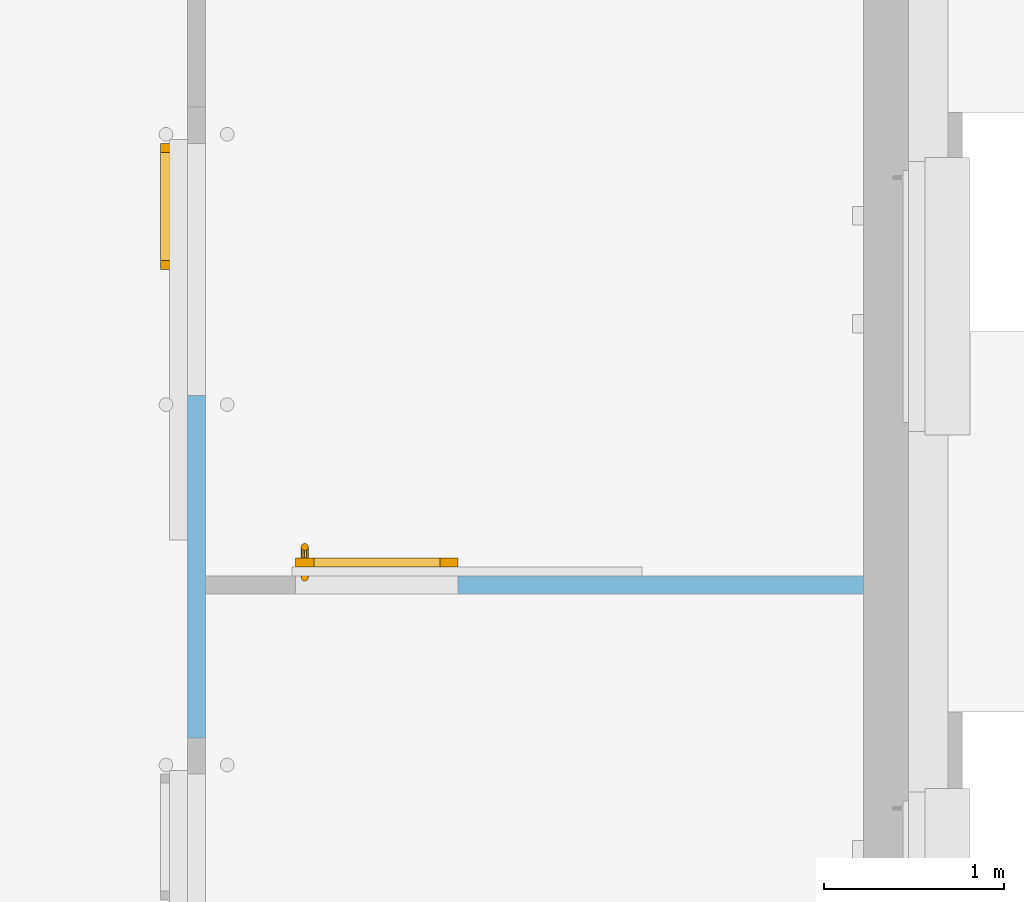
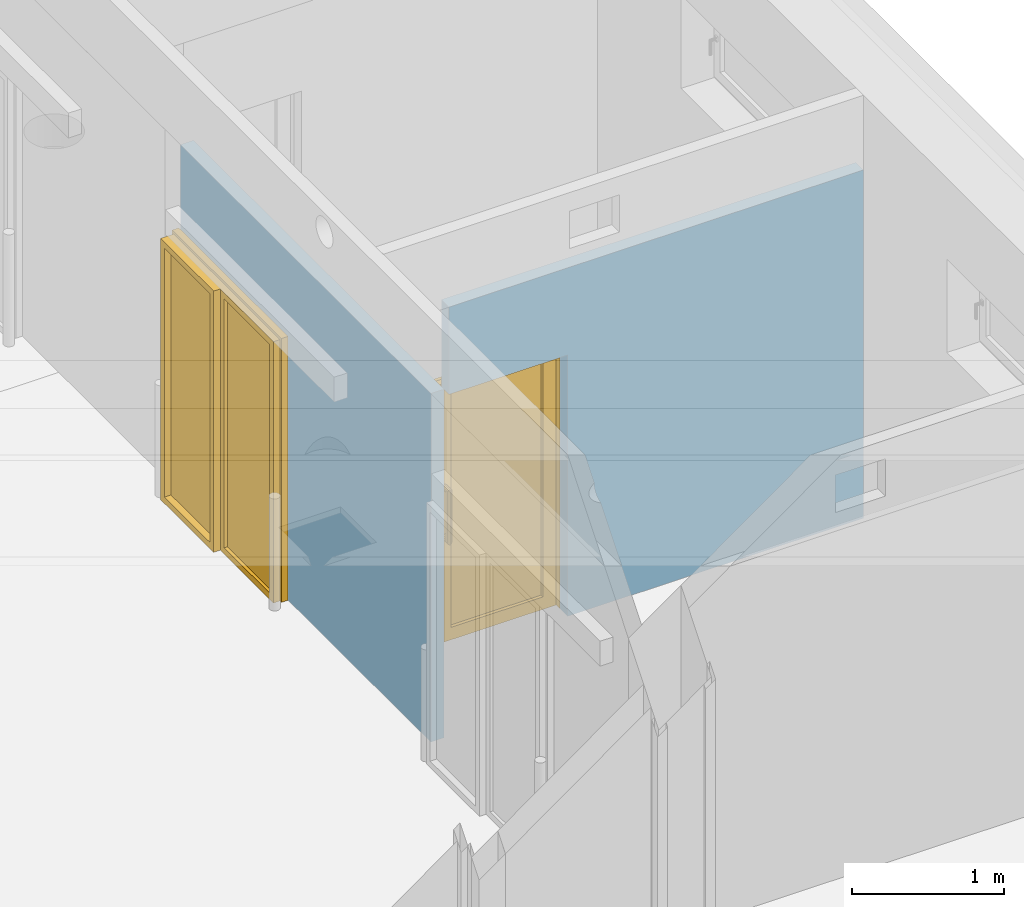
# One storey, part 110 of 140: 2 doors, 2 openings, plus 2 elements that do not belong to this part.
"""IFC4 building model written with IfcOpenShell, lengths in metres."""

import ifcopenshell
import ifcopenshell.guid

model = None  # the IFC model being written
_history = None  # IfcOwnerHistory: only IFC2X3 demands one
_inside = {}  # id of a spatial element -> (the spatial element, [elements in it])
_under = {}  # id of a project, library or spatial element -> (it, [spatial elements below it])
_declared = {}  # id of a project -> (the project, [libraries it declares])
_typed = {}  # id of a type object -> (the type object, [elements of that type])
_made_of = {}  # id of a material, layer set ... -> (it, [elements and type objects made of it])


def new_model(schema):
    """Start an empty IFC model of exactly this schema.

    Asked for "IFC4X3", IfcOpenShell would pick the latest addendum, in which some entities
    have other attributes; the version numbers below select the first issue.
    IFC2X3 requires an IfcOwnerHistory on every rooted entity: one is made here for all.
    """
    global model, _history
    if schema == "IFC4X3":
        model = ifcopenshell.file(schema_version=(4, 3, 0, 0))
    else:
        model = ifcopenshell.file(schema=schema)
    _inside.clear()
    _under.clear()
    _declared.clear()
    _typed.clear()
    _made_of.clear()
    _history = None
    if model.schema == "IFC2X3":
        org = make("IfcOrganization", Name="unknown")
        user = make(
            "IfcPersonAndOrganization",
            ThePerson=make("IfcPerson", FamilyName="unknown"),
            TheOrganization=org,
        )
        app = make(
            "IfcApplication",
            ApplicationDeveloper=org,
            Version="unknown",
            ApplicationFullName="unknown",
            ApplicationIdentifier="unknown",
        )
        _history = make(
            "IfcOwnerHistory",
            OwningUser=user,
            OwningApplication=app,
            ChangeAction="ADDED",
            CreationDate=0,
        )
    return model


def make(cls, **values):
    """One entity of the class cls with the attributes given. An attribute that is None is left unset."""
    return model.create_entity(
        cls, **{name: value for name, value in values.items() if value is not None}
    )


def entity(cls, *values):
    """Any entity or typed value of the class cls, its attributes in the order of the schema. None: left unset."""
    e = model.create_entity(cls)
    for i, value in enumerate(values):
        if value is not None:
            e[i] = value
    return e


def rooted(cls, **values):
    """An entity with a GlobalId (a new one), such as an element, a storey or a relation."""
    return make(cls, GlobalId=ifcopenshell.guid.new(), OwnerHistory=_history, **values)


def si_unit(unit_type, name, prefix=None):
    """IfcSIUnit, for example si_unit("LENGTHUNIT", "METRE", prefix="MILLI")."""
    return make("IfcSIUnit", UnitType=unit_type, Prefix=prefix, Name=name)


def converted_unit(unit_type, name, factor, base, dimensions=None, offset=None):
    """IfcConversionBasedUnit, such as the inch: factor (a typed value) times the base unit."""
    return make(
        "IfcConversionBasedUnit"
        if offset is None
        else "IfcConversionBasedUnitWithOffset",
        ConversionOffset=offset,
        Dimensions=None
        if dimensions is None
        else entity("IfcDimensionalExponents", *dimensions),
        UnitType=unit_type,
        Name=name,
        ConversionFactor=make(
            "IfcMeasureWithUnit", ValueComponent=factor, UnitComponent=base
        ),
    )


def derived_unit(unit_type, elements):
    """IfcDerivedUnit: a product of units, each with its exponent."""
    return make(
        "IfcDerivedUnit",
        Elements=[
            make("IfcDerivedUnitElement", Unit=unit, Exponent=power)
            for unit, power in elements
        ],
        UnitType=unit_type,
    )


def assignment(units):
    """IfcUnitAssignment: the units of a project."""
    return None if units is None else make("IfcUnitAssignment", Units=units)


def point(xyz):
    """IfcCartesianPoint."""
    return None if xyz is None else make("IfcCartesianPoint", Coordinates=xyz)


def direction(xyz):
    """IfcDirection."""
    return None if xyz is None else make("IfcDirection", DirectionRatios=xyz)


def frame(location, z_axis=None, x_axis=None):
    """IfcAxis2Placement3D, a coordinate frame: its origin and axes. An axis left out is left unset."""
    return make(
        "IfcAxis2Placement3D",
        Location=point(location),
        Axis=direction(z_axis),
        RefDirection=direction(x_axis),
    )


def frame_2d(location, x_axis=None):
    """IfcAxis2Placement2D, a coordinate frame in the plane: its origin and x axis."""
    return make(
        "IfcAxis2Placement2D", Location=point(location), RefDirection=direction(x_axis)
    )


def origin():
    """The frame at (0, 0, 0) with its axes left unset."""
    return frame((0.0, 0.0, 0.0))


def origin_with_axes():
    """The frame at (0, 0, 0) with the z axis (0, 0, 1) and the x axis (1, 0, 0) written out."""
    return frame((0.0, 0.0, 0.0), z_axis=(0.0, 0.0, 1.0), x_axis=(1.0, 0.0, 0.0))


def place(relative_to, where):
    """IfcLocalPlacement: puts the frame where relative to a parent placement (None: the world)."""
    return make(
        "IfcLocalPlacement", PlacementRelTo=relative_to, RelativePlacement=where
    )


def context(
    kind, dimensions, precision=None, world=None, true_north=None, identifier=None
):
    """IfcGeometricRepresentationContext, for example the 3D "Model" context."""
    return make(
        "IfcGeometricRepresentationContext",
        ContextIdentifier=identifier,
        ContextType=kind,
        CoordinateSpaceDimension=dimensions,
        Precision=precision,
        WorldCoordinateSystem=world,
        TrueNorth=true_north,
    )


def subcontext(parent, identifier, kind, view, scale=None):
    """IfcGeometricRepresentationSubContext, for example "Body" below "Model"."""
    return make(
        "IfcGeometricRepresentationSubContext",
        ContextIdentifier=identifier,
        ContextType=kind,
        ParentContext=parent,
        TargetScale=scale,
        TargetView=view,
    )


def project(units=None, contexts=None):
    """IfcProject with its units and contexts."""
    return rooted(
        "IfcProject",
        Name="project",
        RepresentationContexts=contexts,
        UnitsInContext=assignment(units),
    )


def spatial(cls, under=None, at=None, **own):
    """A site, building, storey or space (cls), placed at a placement, below another one or the project."""
    s = rooted(cls, ObjectPlacement=at, **own)
    if under is not None:
        _under.setdefault(under.id(), (under, []))[1].append(s)
    return s


def polyline(points):
    """IfcPolyline through the points."""
    return make("IfcPolyline", Points=[point(p) for p in points])


def profile(cls, at=None, kind="AREA", **sizes):
    """A parametric profile (cls). Its sizes go by their IFC names, for example OverallWidth=200.0."""
    return make(cls, ProfileType=kind, Position=at, **sizes)


def rectangle(**sizes):
    """IfcRectangleProfileDef."""
    return profile("IfcRectangleProfileDef", **sizes)


def outline(outer, holes=None, kind="AREA"):
    """IfcArbitraryClosedProfileDef: a profile drawn as a closed curve; with holes, ...WithVoids."""
    if holes is None:
        return make("IfcArbitraryClosedProfileDef", ProfileType=kind, OuterCurve=outer)
    return make(
        "IfcArbitraryProfileDefWithVoids",
        ProfileType=kind,
        OuterCurve=outer,
        InnerCurves=holes,
    )


def extrude(swept, where, along, depth):
    """IfcExtrudedAreaSolid: the profile swept, set in the frame where, extruded along a direction by depth."""
    return make(
        "IfcExtrudedAreaSolid",
        SweptArea=swept,
        Position=where,
        ExtrudedDirection=direction(along),
        Depth=depth,
    )


def faces_of(points, faces, orient=None, outer=None):
    """IfcFace entities. A face is a list of loops; a loop is a list of indices into points, from 0.

    orient and outer hold one flag for each loop. By default every Orientation is true, the
    first loop of a face is its IfcFaceOuterBound and the others are IfcFaceBound.
    """
    made = []
    for i, loops in enumerate(faces):
        bounds = []
        for j, loop in enumerate(loops):
            is_outer = j == 0 if outer is None else outer[i][j]
            bounds.append(
                make(
                    "IfcFaceOuterBound" if is_outer else "IfcFaceBound",
                    Bound=make("IfcPolyLoop", Polygon=[points[k] for k in loop]),
                    Orientation=True if orient is None else orient[i][j],
                )
            )
        made.append(make("IfcFace", Bounds=bounds))
    return made


def closed_shell(faces, orient=None, outer=None):
    """The faces of one IfcClosedShell. faceted_brep and surface_model build it on their shared points."""
    return ("IfcClosedShell", faces, orient, outer)


def open_shell(faces, orient=None, outer=None):
    """The faces of one IfcOpenShell. surface_model builds it on its shared points."""
    return ("IfcOpenShell", faces, orient, outer)


def surface_model(cls, points, shells):
    """IfcFaceBasedSurfaceModel or IfcShellBasedSurfaceModel (cls): surfaces that need not close."""
    shared = [point(p) for p in points]
    made = [make(c, CfsFaces=faces_of(shared, fs, o, b)) for c, fs, o, b in shells]
    if cls == "IfcFaceBasedSurfaceModel":
        return make(cls, FbsmFaces=made)
    return make(cls, SbsmBoundary=made)


def shape(context_of_items, identifier, shape_type, items):
    """IfcShapeRepresentation: the items that make up one representation, for example the "Body"."""
    return make(
        "IfcShapeRepresentation",
        ContextOfItems=context_of_items,
        RepresentationIdentifier=identifier,
        RepresentationType=shape_type,
        Items=items,
    )


def source(mapping_origin, context_of_items, identifier, shape_type, items):
    """IfcRepresentationMap: a shape defined once, which mapped items show again and again."""
    return make(
        "IfcRepresentationMap",
        MappingOrigin=mapping_origin,
        MappedRepresentation=shape(context_of_items, identifier, shape_type, items),
    )


def transform(
    local_origin,
    x_axis=None,
    y_axis=None,
    z_axis=None,
    scale=None,
    scale2=None,
    scale3=None,
    uniform=True,
):
    """IfcCartesianTransformationOperator3D, or its non-uniform kind. x_axis, y_axis, z_axis: its Axis1, 2, 3."""
    if uniform:
        return make(
            "IfcCartesianTransformationOperator3D",
            Axis1=direction(x_axis),
            Axis2=direction(y_axis),
            LocalOrigin=point(local_origin),
            Scale=scale,
            Axis3=direction(z_axis),
        )
    return make(
        "IfcCartesianTransformationOperator3DnonUniform",
        Axis1=direction(x_axis),
        Axis2=direction(y_axis),
        LocalOrigin=point(local_origin),
        Scale=scale,
        Axis3=direction(z_axis),
        Scale2=scale2,
        Scale3=scale3,
    )


def mapped(mapping_source, mapping_target):
    """IfcMappedItem: shows the shape of a source again, moved by a transform."""
    return make(
        "IfcMappedItem", MappingSource=mapping_source, MappingTarget=mapping_target
    )


def material(Name=None, Category=None):
    """IfcMaterial."""
    return make("IfcMaterial", Name=Name, Category=Category)


def layer(
    of_material, thickness, ventilated=None, Name=None, Category=None, Priority=None
):
    """IfcMaterialLayer: one layer of a wall or slab, of a material (None: an air gap)."""
    return make(
        "IfcMaterialLayer",
        Material=of_material,
        LayerThickness=thickness,
        IsVentilated=ventilated,
        Name=Name,
        Category=Category,
        Priority=Priority,
    )


def layer_set(layers, Name=None):
    """IfcMaterialLayerSet."""
    return make("IfcMaterialLayerSet", MaterialLayers=layers, LayerSetName=Name)


def layer_usage(for_layer_set, set_direction, sense, offset, extent=None):
    """IfcMaterialLayerSetUsage: how a layer set lies in its element."""
    return make(
        "IfcMaterialLayerSetUsage",
        ForLayerSet=for_layer_set,
        LayerSetDirection=set_direction,
        DirectionSense=sense,
        OffsetFromReferenceLine=offset,
        ReferenceExtent=extent,
    )


def made_of(thing, what):
    """Note that an element or type object is made of a material, layer set ...; save() writes the relation."""
    if what is not None:
        _made_of.setdefault(what.id(), (what, []))[1].append(thing)
    return thing


def type_object(cls, material=None, **own):
    """A type object (cls), such as IfcWallType, which elements share."""
    return made_of(rooted(cls, **own), material)


def element(
    cls,
    number,
    at=None,
    inside=None,
    cuts=None,
    type_object=None,
    material=None,
    context=None,
    identifier="Body",
    shape_type=None,
    held_by="IfcProductDefinitionShape",
    body=None,
    shapes=None,
    **own,
):
    """One element of the class cls, such as IfcWall. Its Tag is "e" and its number.

    at: its placement. inside: the storey or other place that contains it. cuts: it is an
    opening in that element (IfcRelVoidsElement). A single representation is given by context,
    identifier, shape_type and body (its items); several are given by shapes. held_by: the class
    of the entity that holds the representations. save() writes the other relations.
    """
    e = rooted(cls, Tag="e%d" % number, ObjectPlacement=at, **own)
    if body is not None:
        shapes = [shape(context, identifier, shape_type, body)]
    if shapes is not None:
        e.Representation = make(held_by, Representations=shapes)
    if inside is not None:
        _inside.setdefault(inside.id(), (inside, []))[1].append(e)
    if cuts is not None:
        rooted(
            "IfcRelVoidsElement", RelatingBuildingElement=cuts, RelatedOpeningElement=e
        )
    if type_object is not None:
        _typed.setdefault(type_object.id(), (type_object, []))[1].append(e)
    return made_of(e, material)


def fill(opening, filler):
    """IfcRelFillsElement: the door or window that sits in an opening."""
    return rooted(
        "IfcRelFillsElement",
        RelatingOpeningElement=opening,
        RelatedBuildingElement=filler,
    )


def aggregate(whole, parts):
    """IfcRelAggregates: a whole, such as a stair, and the parts it consists of."""
    return rooted("IfcRelAggregates", RelatingObject=whole, RelatedObjects=parts)


def save(model, path):
    """Write the relations noted so far, then the file.

    IfcRelAggregates (storeys below a building ...), IfcRelContainedInSpatialStructure (elements
    in a storey), IfcRelDefinesByType, IfcRelAssociatesMaterial and IfcRelDeclares: one each for
    every whole, place, type object, material and project.
    """
    for whole, parts in _under.values():
        aggregate(whole, parts)
    for where, things in _inside.values():
        rooted(
            "IfcRelContainedInSpatialStructure",
            RelatedElements=things,
            RelatingStructure=where,
        )
    for kind, things in _typed.values():
        rooted("IfcRelDefinesByType", RelatedObjects=things, RelatingType=kind)
    for what, things in _made_of.values():
        rooted("IfcRelAssociatesMaterial", RelatedObjects=things, RelatingMaterial=what)
    for by, libraries in _declared.values():
        rooted("IfcRelDeclares", RelatingContext=by, RelatedDefinitions=libraries)
    model.write(path)


model = new_model("IFC4")

# Units and contexts
model_context = context("Model", 3, precision=1e-05, world=origin())
body_context = subcontext(model_context, "Body", "Model", "MODEL_VIEW")
ifc_project = project(units=[si_unit("LENGTHUNIT", "METRE"), si_unit("AREAUNIT", "SQUARE_METRE"), si_unit("VOLUMEUNIT", "CUBIC_METRE"), si_unit("MASSUNIT", "GRAM", prefix="KILO"), converted_unit("PLANEANGLEUNIT", "DEGREE", entity("IfcPlaneAngleMeasure", 0.0174532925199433), si_unit("PLANEANGLEUNIT", "RADIAN"), dimensions=[0, 0, 0, 0, 0, 0, 0]), derived_unit("THERMALTRANSMITTANCEUNIT", [(si_unit("POWERUNIT", "WATT"), 1), (si_unit("THERMODYNAMICTEMPERATUREUNIT", "KELVIN"), -1), (si_unit("LENGTHUNIT", "METRE"), -2)]), derived_unit("VOLUMETRICFLOWRATEUNIT", [(si_unit("LENGTHUNIT", "METRE"), 3), (converted_unit("TIMEUNIT", "hour", entity("IfcTimeMeasure", 3600.0), si_unit("TIMEUNIT", "SECOND"), dimensions=[0, 0, 1, 0, 0, 0, 0]), -1), (si_unit("LENGTHUNIT", "METRE"), -1)])], contexts=[model_context])

# Site, building, storey
site_placement = place(None, origin())
site = spatial("IfcSite", under=ifc_project, at=site_placement, Name="3. ASŘ", CompositionType="ELEMENT")
building_placement = place(site_placement, origin())
building = spatial("IfcBuilding", under=site, at=building_placement, Name="Pavilon C", CompositionType="ELEMENT")
storey_placement = place(building_placement, origin())
storey = spatial("IfcBuildingStorey", under=building, at=storey_placement, Name="Půdorys 1.NP", CompositionType="ELEMENT", Elevation=0.0)

# Wall, opening, door
ifc_material_1 = material(Name="PROSKLENÁ PŘÍČKA DVOJITÁ")
ifc_layer_1 = layer(ifc_material_1, 0.1)
ifc_layer_set_1 = layer_set([ifc_layer_1])
ifc_layer_usage_1 = layer_usage(ifc_layer_set_1, "AXIS2", "POSITIVE", 0.0)
wall_1_placement = place(storey_placement, frame((59.8, 16.0, 0.0), z_axis=(0.0, 0.0, 1.0), x_axis=(0.0, -1.0, 0.0)))
wall_1 = element("IfcWall", 1, at=wall_1_placement, inside=storey, material=ifc_layer_usage_1, Name="PROSKLENÁ PŘÍČKA DVOJITÁ", context=body_context, shape_type="SweptSolid", body=[
    extrude(rectangle(XDim=3.30000000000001, YDim=0.1, at=frame_2d((1.65, 0.05), x_axis=(1.0, 0.0))), origin_with_axes(), (0.0, 0.0, 1.0), 2.8),
])
opening_1_placement = place(wall_1_placement, frame((0.0, 0.0, 0.0), z_axis=(0.0, 1.0, 0.0), x_axis=(0.0, 0.0, 1.0)))
opening_1 = element("IfcOpeningElement", 2, at=opening_1_placement, cuts=wall_1, Name="Dveřní otvor", ObjectType="Opening", context=body_context, shape_type="SweptSolid", body=[
    extrude(outline(polyline([(0.0, 1.4), (2.1, 1.4), (2.1, 0.0), (0.0, 0.0), (0.0, 1.4)])), origin_with_axes(), (0.0, 0.0, 1.0), 0.1),
])
door_type_1 = type_object("IfcDoorType", Name="I.DH16", OperationType="NOTDEFINED", ParameterTakesPrecedence=False, PredefinedType="DOOR")
shared_shape_1 = source(origin_with_axes(), body_context, "Body", "SurfaceModel", [
    surface_model("IfcShellBasedSurfaceModel", [(0.0, 0.0500000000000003, 2.12), (0.0, 0.05, 1.11492377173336e-17), (0.02, 0.05, 1.11492377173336e-17), (0.02, 0.0500000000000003, 2.12), (0.0, 0.0, 1.72724717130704e-17), (0.0, 2.62900812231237e-16, 2.12), (0.02, 2.62900812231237e-16, 2.12), (0.02, 0.0, 1.72724717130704e-17)], [closed_shell([[[0, 1, 2, 3]], [[4, 5, 6, 7]], [[1, 0, 5, 4]], [[2, 1, 4, 7]], [[3, 2, 7, 6]], [[0, 3, 6, 5]]], orient=[[False], [False], [False], [False], [False], [False]])]),
    surface_model("IfcShellBasedSurfaceModel", [(1.42, 0.0500000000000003, 2.12), (1.42, 0.05, 1.11492377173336e-17), (1.44, 0.05, 1.11492377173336e-17), (1.44, 0.0500000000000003, 2.12), (1.42, 0.0, 1.72724717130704e-17), (1.42, 2.62900812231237e-16, 2.12), (1.44, 2.62900812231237e-16, 2.12), (1.44, 0.0, 1.72724717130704e-17)], [closed_shell([[[0, 1, 2, 3]], [[4, 5, 6, 7]], [[1, 0, 5, 4]], [[2, 1, 4, 7]], [[3, 2, 7, 6]], [[0, 3, 6, 5]]], orient=[[False], [False], [False], [False], [False], [False]])]),
    surface_model("IfcShellBasedSurfaceModel", [(0.02, 0.0500000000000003, 2.12), (0.02, 0.0500000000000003, 2.1), (1.42, 0.0500000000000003, 2.1), (1.42, 0.0500000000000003, 2.12), (0.02, 2.55795384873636e-16, 2.1), (0.02, 2.55795384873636e-16, 2.12), (1.42, 2.55795384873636e-16, 2.12), (1.42, 2.55795384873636e-16, 2.1)], [closed_shell([[[0, 1, 2, 3]], [[4, 5, 6, 7]], [[1, 0, 5, 4]], [[2, 1, 4, 7]], [[3, 2, 7, 6]], [[0, 3, 6, 5]]], orient=[[False], [False], [False], [False], [False], [False]])]),
    surface_model("IfcShellBasedSurfaceModel", [(0.02, 0.1, 2.1), (0.02, 0.1, 5.02600372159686e-18), (0.07, 0.1, 5.02600372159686e-18), (0.07, 0.1, 2.1), (0.02, 0.05, 1.11492377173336e-17), (0.02, 0.0500000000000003, 2.1), (0.07, 0.0500000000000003, 2.1), (0.07, 0.05, 1.11492377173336e-17)], [closed_shell([[[0, 1, 2, 3]], [[4, 5, 6, 7]], [[1, 0, 5, 4]], [[2, 1, 4, 7]], [[3, 2, 7, 6]], [[0, 3, 6, 5]]], orient=[[False], [False], [False], [False], [False], [False]])]),
    surface_model("IfcShellBasedSurfaceModel", [(0.6695, 0.1, 2.1), (0.6695, 0.1, 5.02600372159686e-18), (0.7195, 0.1, 5.02600372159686e-18), (0.7195, 0.1, 2.1), (0.6695, 0.05, 1.11492377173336e-17), (0.6695, 0.0500000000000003, 2.1), (0.7195, 0.0500000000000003, 2.1), (0.7195, 0.05, 1.11492377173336e-17)], [closed_shell([[[0, 1, 2, 3]], [[4, 5, 6, 7]], [[1, 0, 5, 4]], [[2, 1, 4, 7]], [[3, 2, 7, 6]], [[0, 3, 6, 5]]], orient=[[False], [False], [False], [False], [False], [False]])]),
    surface_model("IfcShellBasedSurfaceModel", [(0.07, 0.1, 0.05), (0.07, 0.1, 5.02600372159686e-18), (0.6695, 0.1, 5.02600372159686e-18), (0.6695, 0.1, 0.05), (0.07, 0.05, 1.11492377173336e-17), (0.07, 0.05, 0.05), (0.6695, 0.05, 0.05), (0.6695, 0.05, 1.11492377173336e-17)], [closed_shell([[[0, 1, 2, 3]], [[4, 5, 6, 7]], [[1, 0, 5, 4]], [[2, 1, 4, 7]], [[3, 2, 7, 6]], [[0, 3, 6, 5]]], orient=[[False], [False], [False], [False], [False], [False]])]),
    surface_model("IfcShellBasedSurfaceModel", [(0.07, 0.1, 2.1), (0.07, 0.1, 2.05), (0.6695, 0.1, 2.05), (0.6695, 0.1, 2.1), (0.07, 0.0500000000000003, 2.05), (0.07, 0.0500000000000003, 2.1), (0.6695, 0.0500000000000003, 2.1), (0.6695, 0.0500000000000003, 2.05)], [closed_shell([[[0, 1, 2, 3]], [[4, 5, 6, 7]], [[1, 0, 5, 4]], [[2, 1, 4, 7]], [[3, 2, 7, 6]], [[0, 3, 6, 5]]], orient=[[False], [False], [False], [False], [False], [False]])]),
    surface_model("IfcShellBasedSurfaceModel", [(0.7205, 0.15, 2.1), (0.7205, 0.15, -1.09723027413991e-18), (0.7705, 0.15, -1.09723027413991e-18), (0.7705, 0.15, 2.1), (0.7205, 0.05, 1.11492377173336e-17), (0.7205, 0.0500000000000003, 2.1), (0.7705, 0.0500000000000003, 2.1), (0.7705, 0.05, 1.11492377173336e-17)], [closed_shell([[[0, 1, 2, 3]], [[4, 5, 6, 7]], [[1, 0, 5, 4]], [[2, 1, 4, 7]], [[3, 2, 7, 6]], [[0, 3, 6, 5]]], orient=[[False], [False], [False], [False], [False], [False]])]),
    surface_model("IfcShellBasedSurfaceModel", [(1.37, 0.15, 2.1), (1.37, 0.15, -1.09723027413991e-18), (1.42, 0.15, -1.09723027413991e-18), (1.42, 0.15, 2.1), (1.37, 0.05, 1.11492377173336e-17), (1.37, 0.0500000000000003, 2.1), (1.42, 0.0500000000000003, 2.1), (1.42, 0.05, 1.11492377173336e-17)], [closed_shell([[[0, 1, 2, 3]], [[4, 5, 6, 7]], [[1, 0, 5, 4]], [[2, 1, 4, 7]], [[3, 2, 7, 6]], [[0, 3, 6, 5]]], orient=[[False], [False], [False], [False], [False], [False]])]),
    surface_model("IfcShellBasedSurfaceModel", [(0.7705, 0.15, 0.05), (0.7705, 0.15, -1.09723027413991e-18), (1.37, 0.15, -1.09723027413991e-18), (1.37, 0.15, 0.05), (0.7705, 0.05, 1.11492377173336e-17), (0.7705, 0.05, 0.05), (1.37, 0.05, 0.05), (1.37, 0.05, 1.11492377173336e-17)], [closed_shell([[[0, 1, 2, 3]], [[4, 5, 6, 7]], [[1, 0, 5, 4]], [[2, 1, 4, 7]], [[3, 2, 7, 6]], [[0, 3, 6, 5]]], orient=[[False], [False], [False], [False], [False], [False]])]),
    surface_model("IfcShellBasedSurfaceModel", [(0.7705, 0.15, 2.1), (0.7705, 0.15, 2.05), (1.37, 0.15, 2.05), (1.37, 0.15, 2.1), (0.7705, 0.0500000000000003, 2.05), (0.7705, 0.0500000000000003, 2.1), (1.37, 0.0500000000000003, 2.1), (1.37, 0.0500000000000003, 2.05)], [closed_shell([[[0, 1, 2, 3]], [[4, 5, 6, 7]], [[1, 0, 5, 4]], [[2, 1, 4, 7]], [[3, 2, 7, 6]], [[0, 3, 6, 5]]], orient=[[False], [False], [False], [False], [False], [False]])]),
    surface_model("IfcShellBasedSurfaceModel", [(0.07, 0.075, 0.05), (0.6695, 0.075, 0.05), (0.6695, 0.0750000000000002, 2.05), (0.07, 0.0750000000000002, 2.05)], [open_shell([[[0, 1, 2, 3]]], orient=[[False]])]),
    surface_model("IfcShellBasedSurfaceModel", [(0.7705, 0.1, 0.05), (1.37, 0.1, 0.05), (1.37, 0.1, 2.05), (0.7705, 0.1, 2.05)], [open_shell([[[0, 1, 2, 3]]], orient=[[False]])]),
])
door_1_placement = place(opening_1_placement, frame((0.0, 1.42, -1.45519152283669e-14), z_axis=(1.0, 0.0, 0.0), x_axis=(0.0, -1.0, 1.22464679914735e-16)))
door_1 = element("IfcDoor", 3, at=door_1_placement, inside=storey, type_object=door_type_1, Name="I.DH16", OverallHeight=2.14, OverallWidth=1.48, context=body_context, shape_type="MappedRepresentation", body=[
    mapped(shared_shape_1, transform((0.0, 0.0, 0.0), x_axis=(1.0, 0.0, 0.0), y_axis=(0.0, 1.0, 0.0), z_axis=(0.0, 0.0, 1.0), scale=1.0)),
])
fill(opening_1, door_1)

ifc_material_2 = material(Name="PROSKLENÁ PŘÍČKA DVOJITÁ")
ifc_layer_2 = layer(ifc_material_2, 0.1)
ifc_layer_set_2 = layer_set([ifc_layer_2])
ifc_layer_usage_2 = layer_usage(ifc_layer_set_2, "AXIS2", "POSITIVE", 0.0)
wall_2_placement = place(storey_placement, frame((60.4, 13.5, 0.0)))
wall_2 = element("IfcWall", 4, at=wall_2_placement, inside=storey, material=ifc_layer_usage_2, Name="PROSKLENÁ PŘÍČKA DVOJITÁ", context=body_context, shape_type="SweptSolid", body=[
    extrude(rectangle(XDim=3.15, YDim=0.1, at=frame_2d((1.575, 0.05), x_axis=(1.0, 0.0))), origin_with_axes(), (0.0, 0.0, 1.0), 2.8),
])
opening_2_placement = place(wall_2_placement, frame((0.0, 0.0, 0.0), z_axis=(0.0, 1.0, 0.0), x_axis=(0.0, 0.0, 1.0)))
opening_2 = element("IfcOpeningElement", 5, at=opening_2_placement, cuts=wall_2, Name="Dveřní otvor", ObjectType="Opening", context=body_context, shape_type="SweptSolid", body=[
    extrude(outline(polyline([(0.0, 0.9), (2.1, 0.9), (2.1, 0.0), (0.0, 0.0), (0.0, 0.9)])), origin_with_axes(), (0.0, 0.0, 1.0), 0.1),
])
door_type_2 = type_object("IfcDoorType", Name="I.DHP01", OperationType="NOTDEFINED", ParameterTakesPrecedence=False, PredefinedType="DOOR")
shared_shape_2 = source(origin_with_axes(), body_context, "Body", "SurfaceModel", [
    surface_model("IfcShellBasedSurfaceModel", [(0.0, 0.0800000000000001, 2.12), (0.0, 0.0799999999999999, 1.11492377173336e-17), (0.02, 0.0799999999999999, 1.11492377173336e-17), (0.02, 0.0800000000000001, 2.12), (0.0, 0.0299999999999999, 1.72724717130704e-17), (0.0, 0.0300000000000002, 2.12), (0.02, 0.0300000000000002, 2.12), (0.02, 0.0299999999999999, 1.72724717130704e-17)], [closed_shell([[[0, 1, 2, 3]], [[4, 5, 6, 7]], [[1, 0, 5, 4]], [[2, 1, 4, 7]], [[3, 2, 7, 6]], [[0, 3, 6, 5]]], orient=[[False], [False], [False], [False], [False], [False]])]),
    surface_model("IfcShellBasedSurfaceModel", [(0.92, 0.0800000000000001, 2.12), (0.92, 0.0799999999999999, 1.11492377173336e-17), (0.94, 0.0799999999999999, 1.11492377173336e-17), (0.94, 0.0800000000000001, 2.12), (0.92, 0.0299999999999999, 1.72724717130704e-17), (0.92, 0.0300000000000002, 2.12), (0.94, 0.0300000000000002, 2.12), (0.94, 0.0299999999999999, 1.72724717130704e-17)], [closed_shell([[[0, 1, 2, 3]], [[4, 5, 6, 7]], [[1, 0, 5, 4]], [[2, 1, 4, 7]], [[3, 2, 7, 6]], [[0, 3, 6, 5]]], orient=[[False], [False], [False], [False], [False], [False]])]),
    surface_model("IfcShellBasedSurfaceModel", [(0.02, 0.0800000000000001, 2.12), (0.02, 0.0800000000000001, 2.1), (0.92, 0.0800000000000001, 2.1), (0.92, 0.0800000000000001, 2.12), (0.02, 0.0300000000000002, 2.1), (0.02, 0.0300000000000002, 2.12), (0.92, 0.0300000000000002, 2.12), (0.92, 0.0300000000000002, 2.1)], [closed_shell([[[0, 1, 2, 3]], [[4, 5, 6, 7]], [[1, 0, 5, 4]], [[2, 1, 4, 7]], [[3, 2, 7, 6]], [[0, 3, 6, 5]]], orient=[[False], [False], [False], [False], [False], [False]])]),
    surface_model("IfcShellBasedSurfaceModel", [(0.02, 0.13, 2.1), (0.02, 0.13, 5.02600372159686e-18), (0.12, 0.13, 5.02600372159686e-18), (0.12, 0.13, 2.1), (0.02, 0.0799999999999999, 1.11492377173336e-17), (0.02, 0.0800000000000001, 2.1), (0.12, 0.0800000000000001, 2.1), (0.12, 0.0799999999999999, 1.11492377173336e-17)], [closed_shell([[[0, 1, 2, 3]], [[4, 5, 6, 7]], [[1, 0, 5, 4]], [[2, 1, 4, 7]], [[3, 2, 7, 6]], [[0, 3, 6, 5]]], orient=[[False], [False], [False], [False], [False], [False]])]),
    surface_model("IfcShellBasedSurfaceModel", [(0.82, 0.13, 2.1), (0.82, 0.13, 5.02600372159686e-18), (0.92, 0.13, 5.02600372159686e-18), (0.92, 0.13, 2.1), (0.82, 0.0799999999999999, 1.11492377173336e-17), (0.82, 0.0800000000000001, 2.1), (0.92, 0.0800000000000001, 2.1), (0.92, 0.0799999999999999, 1.11492377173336e-17)], [closed_shell([[[0, 1, 2, 3]], [[4, 5, 6, 7]], [[1, 0, 5, 4]], [[2, 1, 4, 7]], [[3, 2, 7, 6]], [[0, 3, 6, 5]]], orient=[[False], [False], [False], [False], [False], [False]])]),
    surface_model("IfcShellBasedSurfaceModel", [(0.12, 0.13, 0.1), (0.12, 0.13, 5.02600372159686e-18), (0.82, 0.13, 5.02600372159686e-18), (0.82, 0.13, 0.1), (0.12, 0.0799999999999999, 1.11492377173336e-17), (0.12, 0.0799999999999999, 0.1), (0.82, 0.0799999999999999, 0.1), (0.82, 0.0799999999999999, 1.11492377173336e-17)], [closed_shell([[[0, 1, 2, 3]], [[4, 5, 6, 7]], [[1, 0, 5, 4]], [[2, 1, 4, 7]], [[3, 2, 7, 6]], [[0, 3, 6, 5]]], orient=[[False], [False], [False], [False], [False], [False]])]),
    surface_model("IfcShellBasedSurfaceModel", [(0.12, 0.13, 2.1), (0.12, 0.13, 2.0), (0.82, 0.13, 2.0), (0.82, 0.13, 2.1), (0.12, 0.0800000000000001, 2.0), (0.12, 0.0800000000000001, 2.1), (0.82, 0.0800000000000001, 2.1), (0.82, 0.0800000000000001, 2.0)], [closed_shell([[[0, 1, 2, 3]], [[4, 5, 6, 7]], [[1, 0, 5, 4]], [[2, 1, 4, 7]], [[3, 2, 7, 6]], [[0, 3, 6, 5]]], orient=[[False], [False], [False], [False], [False], [False]])]),
    surface_model("IfcShellBasedSurfaceModel", [(0.89, 0.08, 1.25), (0.887320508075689, 0.08, 1.26), (0.88, 0.08, 1.26732050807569), (0.87, 0.08, 1.27), (0.86, 0.08, 1.26732050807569), (0.852679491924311, 0.08, 1.26), (0.85, 0.08, 1.25), (0.852679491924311, 0.08, 1.24), (0.86, 0.08, 1.23267949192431), (0.87, 0.08, 1.23), (0.88, 0.08, 1.23267949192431), (0.887320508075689, 0.08, 1.24), (0.89, 0.0200000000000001, 1.25), (0.887320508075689, 0.0100000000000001, 1.26), (0.88, 0.00267949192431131, 1.26732050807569), (0.87, 7.105427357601e-17, 1.27), (0.86, 0.00267949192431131, 1.26732050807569), (0.852679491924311, 0.0100000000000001, 1.26), (0.85, 0.0200000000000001, 1.25), (0.852679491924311, 0.0300000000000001, 1.24), (0.86, 0.0373205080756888, 1.23267949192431), (0.87, 0.0400000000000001, 1.23), (0.88, 0.0373205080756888, 1.23267949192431), (0.887320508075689, 0.0300000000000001, 1.24), (0.89, 0.02, 0.85), (0.887320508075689, 0.01, 0.84), (0.88, 0.00267949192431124, 0.832679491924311), (0.87, 0.0, 0.83), (0.86, 0.00267949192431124, 0.832679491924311), (0.852679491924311, 0.01, 0.84), (0.85, 0.02, 0.85), (0.852679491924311, 0.03, 0.86), (0.86, 0.0373205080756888, 0.867320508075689), (0.87, 0.04, 0.87), (0.88, 0.0373205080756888, 0.867320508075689), (0.887320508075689, 0.03, 0.86), (0.89, 0.08, 0.85), (0.887320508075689, 0.08, 0.84), (0.88, 0.08, 0.832679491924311), (0.87, 0.08, 0.83), (0.86, 0.08, 0.832679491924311), (0.852679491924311, 0.08, 0.84), (0.85, 0.08, 0.85), (0.852679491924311, 0.08, 0.86), (0.86, 0.08, 0.867320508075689), (0.87, 0.08, 0.87), (0.88, 0.08, 0.867320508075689), (0.887320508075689, 0.08, 0.86)], [open_shell([[[0, 1, 2, 3, 4, 5, 6, 7, 8, 9, 10, 11]], [[0, 12, 13, 1]], [[1, 13, 14, 2]], [[2, 14, 15, 3]], [[3, 15, 16, 4]], [[4, 16, 17, 5]], [[5, 17, 18, 6]], [[6, 18, 19, 7]], [[7, 19, 20, 8]], [[8, 20, 21, 9]], [[9, 21, 22, 10]], [[10, 22, 23, 11]], [[11, 23, 12, 0]], [[12, 24, 25, 13]], [[13, 25, 26, 14]], [[14, 26, 27, 15]], [[15, 27, 28, 16]], [[16, 28, 29, 17]], [[17, 29, 30, 18]], [[18, 30, 31, 19]], [[19, 31, 32, 20]], [[20, 32, 33, 21]], [[21, 33, 34, 22]], [[22, 34, 35, 23]], [[23, 35, 24, 12]], [[24, 36, 37, 25]], [[25, 37, 38, 26]], [[26, 38, 39, 27]], [[27, 39, 40, 28]], [[28, 40, 41, 29]], [[29, 41, 42, 30]], [[30, 42, 43, 31]], [[31, 43, 44, 32]], [[32, 44, 45, 33]], [[33, 45, 46, 34]], [[34, 46, 47, 35]], [[35, 47, 36, 24]]], orient=[[False], [False], [False], [False], [False], [False], [False], [False], [False], [False], [False], [False], [False], [False], [False], [False], [False], [False], [False], [False], [False], [False], [False], [False], [False], [False], [False], [False], [False], [False], [False], [False], [False], [False], [False], [False], [False]])]),
    surface_model("IfcShellBasedSurfaceModel", [(0.89, 0.13, 1.25), (0.887320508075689, 0.13, 1.24), (0.88, 0.13, 1.23267949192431), (0.87, 0.13, 1.23), (0.86, 0.13, 1.23267949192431), (0.852679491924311, 0.13, 1.24), (0.85, 0.13, 1.25), (0.852679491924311, 0.13, 1.26), (0.86, 0.13, 1.26732050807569), (0.87, 0.13, 1.27), (0.88, 0.13, 1.26732050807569), (0.887320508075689, 0.13, 1.26), (0.887320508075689, 0.2, 1.26), (0.89, 0.19, 1.25), (0.88, 0.207320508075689, 1.26732050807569), (0.87, 0.21, 1.27), (0.86, 0.207320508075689, 1.26732050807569), (0.852679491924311, 0.2, 1.26), (0.85, 0.19, 1.25), (0.852679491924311, 0.18, 1.24), (0.86, 0.172679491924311, 1.23267949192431), (0.87, 0.17, 1.23), (0.88, 0.172679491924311, 1.23267949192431), (0.887320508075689, 0.18, 1.24), (0.887320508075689, 0.2, 0.84), (0.89, 0.19, 0.85), (0.88, 0.207320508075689, 0.832679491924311), (0.87, 0.21, 0.83), (0.86, 0.207320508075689, 0.832679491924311), (0.852679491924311, 0.2, 0.84), (0.85, 0.19, 0.85), (0.852679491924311, 0.18, 0.86), (0.86, 0.172679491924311, 0.867320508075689), (0.87, 0.17, 0.87), (0.88, 0.172679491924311, 0.867320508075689), (0.887320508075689, 0.18, 0.86), (0.887320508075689, 0.13, 0.84), (0.89, 0.13, 0.85), (0.88, 0.13, 0.832679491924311), (0.87, 0.13, 0.83), (0.86, 0.13, 0.832679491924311), (0.852679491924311, 0.13, 0.84), (0.85, 0.13, 0.85), (0.852679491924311, 0.13, 0.86), (0.86, 0.13, 0.867320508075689), (0.87, 0.13, 0.87), (0.88, 0.13, 0.867320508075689), (0.887320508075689, 0.13, 0.86)], [open_shell([[[0, 1, 2, 3, 4, 5, 6, 7, 8, 9, 10, 11]], [[0, 11, 12, 13]], [[11, 10, 14, 12]], [[10, 9, 15, 14]], [[9, 8, 16, 15]], [[8, 7, 17, 16]], [[7, 6, 18, 17]], [[6, 5, 19, 18]], [[5, 4, 20, 19]], [[4, 3, 21, 20]], [[3, 2, 22, 21]], [[2, 1, 23, 22]], [[1, 0, 13, 23]], [[13, 12, 24, 25]], [[12, 14, 26, 24]], [[14, 15, 27, 26]], [[15, 16, 28, 27]], [[16, 17, 29, 28]], [[17, 18, 30, 29]], [[18, 19, 31, 30]], [[19, 20, 32, 31]], [[20, 21, 33, 32]], [[21, 22, 34, 33]], [[22, 23, 35, 34]], [[23, 13, 25, 35]], [[25, 24, 36, 37]], [[24, 26, 38, 36]], [[26, 27, 39, 38]], [[27, 28, 40, 39]], [[28, 29, 41, 40]], [[29, 30, 42, 41]], [[30, 31, 43, 42]], [[31, 32, 44, 43]], [[32, 33, 45, 44]], [[33, 34, 46, 45]], [[34, 35, 47, 46]], [[35, 25, 37, 47]]], orient=[[False], [False], [False], [False], [False], [False], [False], [False], [False], [False], [False], [False], [False], [False], [False], [False], [False], [False], [False], [False], [False], [False], [False], [False], [False], [False], [False], [False], [False], [False], [False], [False], [False], [False], [False], [False], [False]])]),
    surface_model("IfcShellBasedSurfaceModel", [(0.12, 0.105, 0.1), (0.82, 0.105, 0.1), (0.82, 0.105, 2.0), (0.12, 0.105, 2.0)], [open_shell([[[0, 1, 2, 3]]], orient=[[False]])]),
])
door_2_placement = place(opening_2_placement, frame((-1.4210854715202e-17, 0.92, 0.07), z_axis=(1.0, 0.0, 0.0), x_axis=(0.0, -1.0, 0.0)))
door_2 = element("IfcDoor", 6, at=door_2_placement, inside=storey, type_object=door_type_2, Name="I.DHP01", OverallHeight=2.14, OverallWidth=0.98, context=body_context, shape_type="MappedRepresentation", body=[
    mapped(shared_shape_2, transform((0.0, 0.0, 0.0), x_axis=(1.0, 0.0, 0.0), y_axis=(0.0, -1.0, 0.0), z_axis=(0.0, 0.0, 1.0), scale=1.0)),
])
fill(opening_2, door_2)

save(model, "model.ifc")
